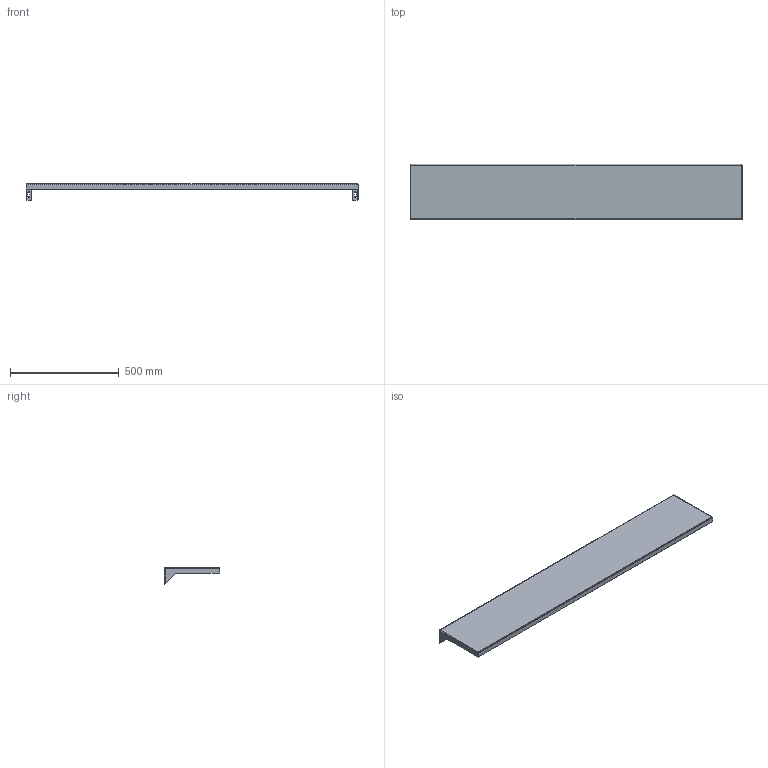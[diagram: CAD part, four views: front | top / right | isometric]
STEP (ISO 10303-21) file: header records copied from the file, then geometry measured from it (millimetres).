
FILE_DESCRIPTION((''),'2;1');
FILE_NAME('MODEL-198_ASM','2021-09-13T11:20:19',('mikek'),('SAGINAW CONTROL & ENGINEERING'),'CREO PARAMETRIC BY PTC INC, 2017260','CREO PARAMETRIC BY PTC INC, 2017260','');
FILE_SCHEMA(('AUTOMOTIVE_DESIGN { 1 0 10303 214 1 1 1 1 }'));
Length unit declared in the file: inch
Products named in the file (3): MODEL-198-WRITING-DESK; 102043_ASM; MODEL-198_ASM
Assembly tree (2 placements, depth 2):
  MODEL-198_ASM
    MODEL-198-WRITING-DESK
    102043_ASM
Bounding box: 1524 x 254 x 76.2 mm (x, y, z)
Volume: 930633.5 mm3; surface area: 947789.8 mm2
Topology: 1 solids, 1 shells, 100 faces, 246 edges, 148 vertices
Faces by surface type: cylinder 42, plane 40, bspline 14, sphere 4
Entity records: 4085 total; most frequent: CARTESIAN_POINT 1276, ORIENTED_EDGE 492, DIRECTION 472, EDGE_CURVE 246, AXIS2_PLACEMENT_3D 163, VERTEX_POINT 148, VECTOR 146, LINE 146
